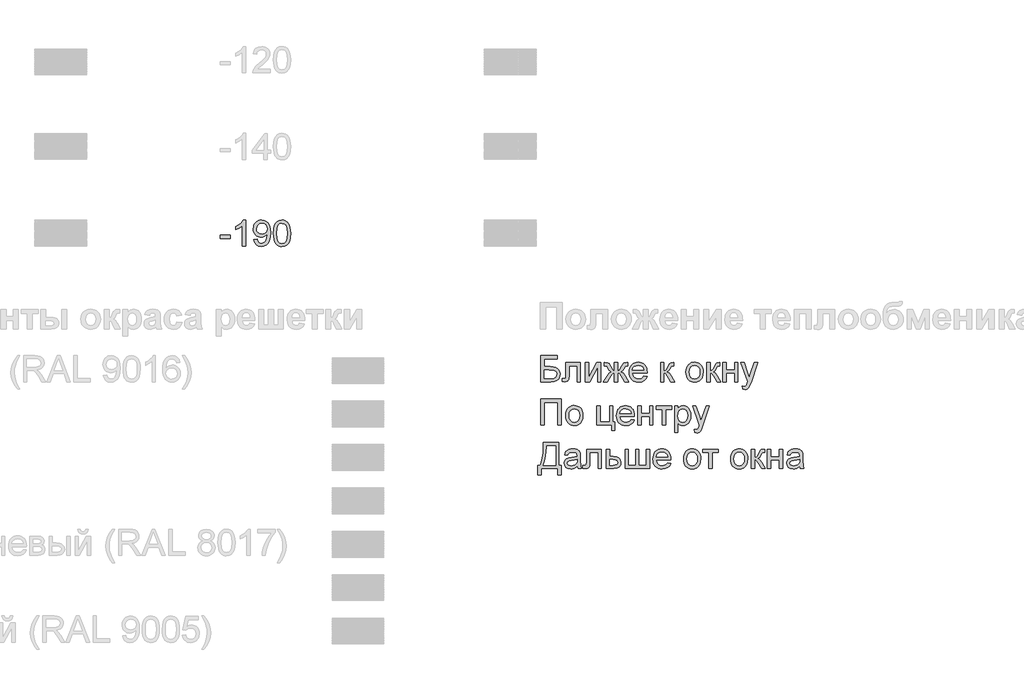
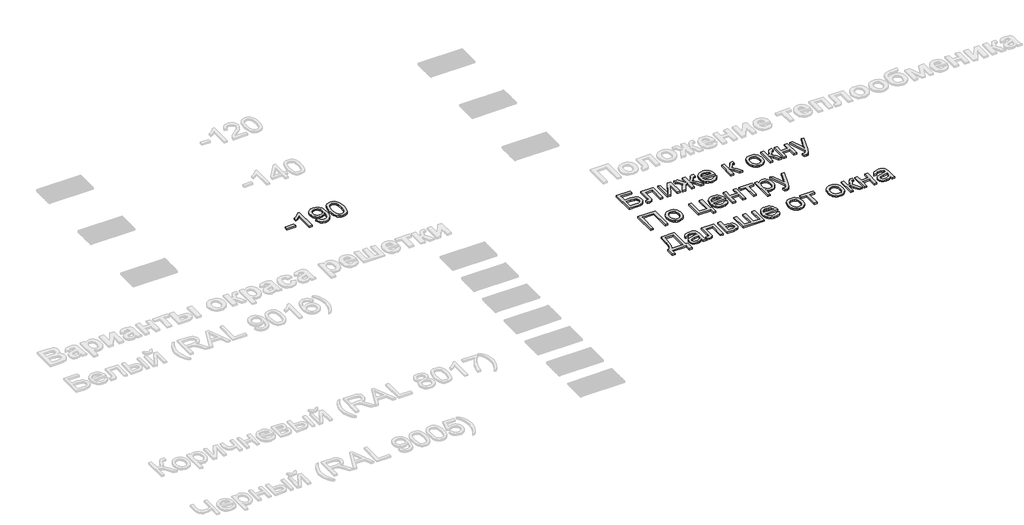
# One storey, part 7 of 10: 4 proxies.
"""IFC4 building model written with IfcOpenShell, lengths in millimetres."""

from ifc_helpers import new_model, si_unit, origin, origin_with_axes, place, context, project, spatial, polyline, outline, extrude, element, save

model = new_model("IFC4")

# Units and contexts
model_context = context("Model", 3, world=origin())
ifc_project = project(units=[si_unit("LENGTHUNIT", "METRE", prefix="MILLI")], contexts=[model_context])

# Site, building, storey
site = spatial("IfcSite", under=ifc_project)
building = spatial("IfcBuilding", under=site)
storey = spatial("IfcBuildingStorey", under=building, Name="Уровень 1", Elevation=0.0)

# Proxies
placement = place(None, origin())
element("IfcBuildingElementProxy", 1, Name="300", ObjectType="300", at=placement, inside=storey, context=model_context, shape_type="SweptSolid", body=[
    extrude(outline(polyline([(14601.8476281, -18213.7438159), (14790.2032096, -18213.7438159), (14790.2032096, -18251.4149322), (14639.5187444, -18251.4149322), (14639.5187444, -18340.8838335), (14710.078511, -18340.8838335), (14745.1560593, -18342.7968198), (14772.2505682, -18348.535779), (14793.0542951, -18359.5906329), (14809.2594969, -18377.4513038), (14819.6889515, -18400.4439285), (14823.1654364, -18426.8946439), (14820.6914299, -18449.1055194), (14813.2694107, -18469.8264728), (14800.9361668, -18487.9722522), (14783.7284865, -18502.4576057), (14757.1858005, -18511.9489612), (14716.8475398, -18515.1127464), (14601.8476281, -18515.1127464), (14601.8476281, -18213.7438159)]), holes=[polyline([(14639.5187444, -18477.4416301), (14720.2320541, -18477.4416301), (14748.7613028, -18474.3330272), (14769.1603595, -18465.0072186), (14781.4108299, -18449.4642043), (14785.4943201, -18427.7039843), (14783.1582694, -18411.4987824), (14776.1501174, -18398.1998483), (14764.9757018, -18388.3406108), (14750.1408603, -18382.4544989), (14693.3766685, -18378.5549498), (14639.5187444, -18378.5549498), (14639.5187444, -18477.4416301)])]), origin_with_axes(), (0.0, 0.0, 1.0), 20.0),
    extrude(outline(polyline([(14889.0898899, -18293.7949381), (15058.6099133, -18293.7949381), (15058.6099133, -18514.8920172), (15020.938797, -18514.8920172), (15020.938797, -18331.4660544), (14926.7610062, -18331.4660544), (14926.7610062, -18437.048187), (14924.2226204, -18485.7557632), (14919.4677457, -18496.783026), (14910.2798928, -18506.3203667), (14896.3371652, -18512.9146515), (14877.3176661, -18515.1127464), (14846.7098841, -18513.19976), (14846.7098841, -18477.4416301), (14863.5588794, -18477.4416301), (14880.5918158, -18475.1239735), (14887.3976327, -18467.7663336), (14889.0898899, -18434.9144714), (14889.0898899, -18293.7949381)])), origin_with_axes(), (0.0, 0.0, 1.0), 20.0),
    extrude(outline(polyline([(15115.1165877, -18293.7949381), (15152.787704, -18293.7949381), (15152.787704, -18462.5791975), (15245.346814, -18293.7949381), (15294.0543902, -18293.7949381), (15294.0543902, -18515.1127464), (15256.3832739, -18515.1127464), (15256.3832739, -18347.3585566), (15164.4127751, -18515.1127464), (15115.1165877, -18515.1127464), (15115.1165877, -18293.7949381)])), origin_with_axes(), (0.0, 0.0, 1.0), 20.0),
    extrude(outline(polyline([(15487.1188613, -18293.7949381), (15487.1188613, -18387.9727288), (15500.4085983, -18386.0321513), (15509.0814164, -18380.2104187), (15529.8667491, -18339.9273403), (15542.8345894, -18314.8193941), (15554.6619956, -18301.2997308), (15569.0277875, -18295.6711363), (15589.9050907, -18293.7949381), (15604.8410997, -18293.7949381), (15604.8410997, -18331.6867836), (15594.4668275, -18331.4660544), (15575.0426581, -18335.3656035), (15561.5781771, -18359.792968), (15545.9431923, -18386.5747773), (15523.6127552, -18400.1864111), (15536.0057799, -18405.4885103), (15548.2424548, -18414.8465086), (15572.2467549, -18445.7302021), (15614.2588788, -18515.1127464), (15571.0695326, -18515.1127464), (15529.7195963, -18446.6866953), (15518.416422, -18428.7248569), (15508.639958, -18418.2494171), (15498.7531294, -18413.2002367), (15487.1188613, -18411.5171765), (15487.1188613, -18515.1127464), (15449.447745, -18515.1127464), (15449.447745, -18411.5171765), (15437.9054474, -18413.1634485), (15428.0002246, -18418.1022643), (15418.1501842, -18428.5041277), (15406.7734335, -18446.5395425), (15365.4234973, -18515.1127464), (15322.3077274, -18515.1127464), (15364.1726985, -18445.7302021), (15388.3609397, -18414.8465086), (15400.6619939, -18405.4885103), (15413.1010038, -18400.1864111), (15398.7168178, -18392.975924), (15389.4094033, -18385.1768257), (15369.1023172, -18346.5492162), (15359.1695033, -18333.8204992), (15342.9091192, -18331.2453252), (15331.7255065, -18331.4660544), (15331.7255065, -18293.7949381), (15337.3908892, -18293.7949381), (15370.4266924, -18296.1493829), (15387.5699934, -18306.1557731), (15406.7734335, -18339.9273403), (15427.338037, -18379.9529014), (15436.0108551, -18385.967772), (15449.447745, -18387.9727288), (15449.447745, -18293.7949381), (15487.1188613, -18293.7949381)])), origin_with_axes(), (0.0, 0.0, 1.0), 20.0),
    extrude(outline(polyline([(15788.0463333, -18449.1882928), (15824.9816856, -18453.8971824), (15811.6735545, -18481.7274553), (15790.4375663, -18502.5311821), (15761.7519677, -18515.4990225), (15726.0950053, -18519.8216359), (15702.7207031, -18517.9569341), (15681.8939836, -18512.3628285), (15663.614847, -18503.0393192), (15647.8832932, -18489.9864061), (15635.232751, -18473.5673728), (15626.1966495, -18454.1455027), (15620.7749886, -18431.7207959), (15618.9677683, -18406.2932522), (15620.7933827, -18380.0034851), (15626.2702259, -18356.831518), (15635.3982979, -18336.7773507), (15648.1775988, -18319.8409833), (15663.8677658, -18306.3856994), (15681.7284367, -18296.7747822), (15701.7596113, -18291.008232), (15723.9612898, -18289.0860485), (15745.4478975, -18291.0036334), (15764.8789647, -18296.7563881), (15782.2544912, -18306.3443126), (15797.574477, -18319.7674069), (15810.0801656, -18336.6669861), (15819.0128003, -18356.6843652), (15824.3723811, -18379.8195441), (15826.158908, -18406.072523), (15825.9381788, -18416.2260661), (15656.6388846, -18416.2260661), (15663.159593, -18444.424221), (15678.3071342, -18465.1543714), (15700.1685217, -18477.9014826), (15726.8307693, -18482.1505196), (15746.8803381, -18480.1823509), (15763.7661216, -18474.2778449), (15777.4881201, -18464.0691195), (15788.0463333, -18449.1882928)]), holes=[polyline([(15656.6388846, -18378.5549498), (15788.4877917, -18378.5549498), (15783.3926261, -18358.6525338), (15773.4046299, -18344.4155006), (15751.4420748, -18331.1717488), (15723.814137, -18326.7571648), (15698.4210822, -18330.279635), (15677.4242174, -18340.8470453), (15662.8284992, -18357.3189616), (15656.6388846, -18378.5549498)])]), origin_with_axes(), (0.0, 0.0, 1.0), 20.0),
    extrude(outline(polyline([(15981.5522628, -18293.7949381), (16019.2233791, -18293.7949381), (16019.2233791, -18387.9727288), (16034.5456642, -18386.2804717), (16044.460084, -18381.2037001), (16053.2340695, -18367.9599483), (16065.1350521, -18341.7667503), (16082.3151413, -18307.7376657), (16097.4718795, -18296.6644176), (16125.0262409, -18293.7949381), (16132.236728, -18293.7949381), (16132.236728, -18331.6867836), (16122.0831849, -18331.4660544), (16103.6890852, -18335.4391799), (16090.7396389, -18360.2344264), (16075.5461125, -18387.0530239), (16054.245745, -18400.1864111), (16066.1835158, -18405.4885103), (16078.0109219, -18414.8465086), (16101.3346404, -18445.7302021), (16141.6545071, -18515.1127464), (16098.8330428, -18515.1127464), (16059.3225166, -18447.2017301), (16039.4568888, -18418.4701462), (16030.1678684, -18413.255419), (16019.2233791, -18411.5171765), (16019.2233791, -18515.1127464), (15981.5522628, -18515.1127464), (15981.5522628, -18293.7949381)])), origin_with_axes(), (0.0, 0.0, 1.0), 20.0),
    extrude(outline(polyline([(16273.5034142, -18404.4538422), (16275.5405607, -18375.7912363), (16281.6520003, -18351.0925588), (16291.8377331, -18330.3578099), (16306.0977589, -18313.5869894), (16320.4543538, -18302.8678278), (16336.3008707, -18295.2112838), (16353.6373098, -18290.6173573), (16372.4636709, -18289.0860485), (16393.2467043, -18290.9507504), (16412.0385765, -18296.544856), (16428.8392874, -18305.8683653), (16443.6488369, -18318.9212784), (16455.7360597, -18335.2621367), (16464.3697903, -18354.449482), (16469.5500286, -18376.4833143), (16471.2767748, -18401.3636335), (16468.2233542, -18439.4210259), (16459.0630925, -18468.391733), (16444.0627042, -18490.0875737), (16423.4889036, -18506.3203667), (16399.0523421, -18516.4463186), (16372.4636709, -18519.8216359), (16351.3771347, -18517.9638318), (16332.4105186, -18512.3904196), (16315.5638225, -18503.1013992), (16300.8370464, -18490.0967707), (16288.8785823, -18473.5972632), (16280.3368222, -18453.823606), (16275.2117662, -18430.775799), (16273.5034142, -18404.4538422)]), holes=[polyline([(16311.1745305, -18404.3802658), (16315.5339321, -18438.4737297), (16328.612137, -18462.7631385), (16348.2938238, -18477.3036743), (16372.4636709, -18482.1505196), (16396.5231533, -18477.2760832), (16416.1680519, -18462.6527739), (16429.2462568, -18438.0414684), (16433.6056585, -18403.2030434), (16429.2186657, -18370.1028609), (16416.0576873, -18346.144546), (16396.3851976, -18331.6040101), (16372.4636709, -18326.7571648), (16348.2938238, -18331.585616), (16328.612137, -18346.0709696), (16315.5339321, -18370.305196), (16311.1745305, -18404.3802658)])]), origin_with_axes(), (0.0, 0.0, 1.0), 20.0),
    extrude(outline(polyline([(16513.6567806, -18293.7949381), (16551.3278969, -18293.7949381), (16551.3278969, -18387.9727288), (16566.650182, -18386.2804717), (16576.5646018, -18381.2037001), (16585.3385874, -18367.9599483), (16597.2395699, -18341.7667503), (16614.4196591, -18307.7376657), (16629.5763973, -18296.6644176), (16657.1307587, -18293.7949381), (16664.3412458, -18293.7949381), (16664.3412458, -18331.6867836), (16654.1877028, -18331.4660544), (16635.793603, -18335.4391799), (16622.8441568, -18360.2344264), (16607.6506304, -18387.0530239), (16586.3502629, -18400.1864111), (16598.2880336, -18405.4885103), (16610.1154397, -18414.8465086), (16633.4391582, -18445.7302021), (16673.7590249, -18515.1127464), (16630.9375607, -18515.1127464), (16591.4270344, -18447.2017301), (16571.5614066, -18418.4701462), (16562.2723863, -18413.255419), (16551.3278969, -18411.5171765), (16551.3278969, -18515.1127464), (16513.6567806, -18515.1127464), (16513.6567806, -18293.7949381)])), origin_with_axes(), (0.0, 0.0, 1.0), 20.0),
    extrude(outline(polyline([(16697.3034726, -18293.7949381), (16734.9745889, -18293.7949381), (16734.9745889, -18378.5549498), (16833.8612692, -18378.5549498), (16833.8612692, -18293.7949381), (16871.5323855, -18293.7949381), (16871.5323855, -18515.1127464), (16833.8612692, -18515.1127464), (16833.8612692, -18416.2260661), (16734.9745889, -18416.2260661), (16734.9745889, -18515.1127464), (16697.3034726, -18515.1127464), (16697.3034726, -18293.7949381)])), origin_with_axes(), (0.0, 0.0, 1.0), 20.0),
    extrude(outline(polyline([(16928.03906, -18599.8727581), (16923.3301704, -18563.5995933), (16942.4600342, -18566.9105313), (16960.3390991, -18562.7534648), (16971.3019826, -18551.1651819), (16981.6026785, -18523.4268795), (16984.5457344, -18514.303406), (16904.4946123, -18293.7949381), (16944.2258678, -18293.7949381), (16986.67945, -18416.6675245), (17001.4683062, -18465.816559), (17016.2571624, -18422.4064836), (17059.887967, -18293.7949381), (17099.3249169, -18293.7949381), (17022.2904271, -18520.4102471), (17002.2776466, -18569.5592817), (16992.032133, -18585.2494488), (16980.4254561, -18596.1203617), (16966.942581, -18602.4663261), (16951.0684729, -18604.5816476), (16928.03906, -18599.8727581)])), origin_with_axes(), (0.0, 0.0, 1.0), 20.0),
])
element("IfcBuildingElementProxy", 2, Name="300", ObjectType="300", at=placement, inside=storey, context=model_context, shape_type="SweptSolid", body=[
    extrude(outline(polyline([(14601.8476281, -18713.7438159), (14837.292105, -18713.7438159), (14837.292105, -19015.1127464), (14799.6209887, -19015.1127464), (14799.6209887, -18751.4149322), (14639.5187444, -18751.4149322), (14639.5187444, -19015.1127464), (14601.8476281, -19015.1127464), (14601.8476281, -18713.7438159)])), origin_with_axes(), (0.0, 0.0, 1.0), 20.0),
    extrude(outline(polyline([(14889.0898899, -18904.4538422), (14891.1270365, -18875.7912363), (14897.2384761, -18851.0925588), (14907.4242088, -18830.3578099), (14921.6842347, -18813.5869894), (14936.0408295, -18802.8678278), (14951.8873465, -18795.2112838), (14969.2237855, -18790.6173573), (14988.0501466, -18789.0860485), (15008.8331801, -18790.9507504), (15027.6250522, -18796.544856), (15044.4257631, -18805.8683653), (15059.2353127, -18818.9212784), (15071.3225355, -18835.2621367), (15079.9562661, -18854.449482), (15085.1365044, -18876.4833143), (15086.8632505, -18901.3636335), (15083.8098299, -18939.4210259), (15074.6495683, -18968.391733), (15059.6491799, -18990.0875737), (15039.0753793, -19006.3203667), (15014.6388178, -19016.4463186), (14988.0501466, -19019.8216359), (14966.9636105, -19017.9638318), (14947.9969944, -19012.3904196), (14931.1502983, -19003.1013992), (14916.4235221, -18990.0967707), (14904.465058, -18973.5972632), (14895.923298, -18953.823606), (14890.7982419, -18930.775799), (14889.0898899, -18904.4538422)]), holes=[polyline([(14926.7610062, -18904.3802658), (14931.1204079, -18938.4737297), (14944.1986128, -18962.7631385), (14963.8802995, -18977.3036743), (14988.0501466, -18982.1505196), (15012.1096291, -18977.2760832), (15031.7545276, -18962.6527739), (15044.8327326, -18938.0414684), (15049.1921342, -18903.2030434), (15044.8051414, -18870.1028609), (15031.644163, -18846.144546), (15011.9716733, -18831.6040101), (14988.0501466, -18826.7571648), (14963.8802995, -18831.585616), (14944.1986128, -18846.0709696), (14931.1204079, -18870.305196), (14926.7610062, -18904.3802658)])]), origin_with_axes(), (0.0, 0.0, 1.0), 20.0),
    extrude(outline(polyline([(15246.9654948, -18793.7949381), (15284.6366111, -18793.7949381), (15284.6366111, -18977.4416301), (15392.9410705, -18977.4416301), (15392.9410705, -18793.7949381), (15430.6121868, -18793.7949381), (15430.6121868, -18977.4416301), (15454.1566345, -18977.4416301), (15454.1566345, -19076.3283104), (15416.4855182, -19076.3283104), (15416.4855182, -19015.1127464), (15246.9654948, -19015.1127464), (15246.9654948, -18793.7949381)])), origin_with_axes(), (0.0, 0.0, 1.0), 20.0),
    extrude(outline(polyline([(15642.0707576, -18949.1882928), (15679.0061099, -18953.8971824), (15665.6979788, -18981.7274553), (15644.4619906, -19002.5311821), (15615.776392, -19015.4990225), (15580.1194296, -19019.8216359), (15556.7451274, -19017.9569341), (15535.9184079, -19012.3628285), (15517.6392713, -19003.0393192), (15501.9077175, -18989.9864061), (15489.2571754, -18973.5673728), (15480.2210739, -18954.1455027), (15474.7994129, -18931.7207959), (15472.9921926, -18906.2932522), (15474.817807, -18880.0034851), (15480.2946503, -18856.831518), (15489.4227223, -18836.7773507), (15502.2020231, -18819.8409833), (15517.8921902, -18806.3856994), (15535.752861, -18796.7747822), (15555.7840357, -18791.008232), (15577.9857141, -18789.0860485), (15599.4723219, -18791.0036334), (15618.903389, -18796.7563881), (15636.2789155, -18806.3443126), (15651.5989013, -18819.7674069), (15664.1045899, -18836.6669861), (15673.0372246, -18856.6843652), (15678.3968054, -18879.8195441), (15680.1833323, -18906.072523), (15679.9626031, -18916.2260661), (15510.663309, -18916.2260661), (15517.1840173, -18944.424221), (15532.3315585, -18965.1543714), (15554.192946, -18977.9014826), (15580.8551936, -18982.1505196), (15600.9047624, -18980.1823509), (15617.7905459, -18974.2778449), (15631.5125444, -18964.0691195), (15642.0707576, -18949.1882928)]), holes=[polyline([(15510.663309, -18878.5549498), (15642.512216, -18878.5549498), (15637.4170504, -18858.6525338), (15627.4290542, -18844.4155006), (15605.4664991, -18831.1717488), (15577.8385613, -18826.7571648), (15552.4455066, -18830.279635), (15531.4486417, -18840.8470453), (15516.8529235, -18857.3189616), (15510.663309, -18878.5549498)])]), origin_with_axes(), (0.0, 0.0, 1.0), 20.0),
    extrude(outline(polyline([(15717.8544486, -18793.7949381), (15755.5255649, -18793.7949381), (15755.5255649, -18878.5549498), (15854.4122452, -18878.5549498), (15854.4122452, -18793.7949381), (15892.0833616, -18793.7949381), (15892.0833616, -19015.1127464), (15854.4122452, -19015.1127464), (15854.4122452, -18916.2260661), (15755.5255649, -18916.2260661), (15755.5255649, -19015.1127464), (15717.8544486, -19015.1127464), (15717.8544486, -18793.7949381)])), origin_with_axes(), (0.0, 0.0, 1.0), 20.0),
    extrude(outline(polyline([(15929.7544779, -18793.7949381), (16108.6922803, -18793.7949381), (16108.6922803, -18831.4660544), (16038.0589372, -18831.4660544), (16038.0589372, -19015.1127464), (16000.3878209, -19015.1127464), (16000.3878209, -18831.4660544), (15929.7544779, -18831.4660544), (15929.7544779, -18793.7949381)])), origin_with_axes(), (0.0, 0.0, 1.0), 20.0),
    extrude(outline(polyline([(16141.6545071, -19099.8727581), (16141.6545071, -18793.7949381), (16179.3256234, -18793.7949381), (16179.3256234, -18830.7302904), (16191.612882, -18812.5109346), (16205.3716686, -18799.497109), (16221.4113236, -18791.6888137), (16240.5411874, -18789.0860485), (16266.0170155, -18792.7280803), (16288.2922704, -18803.6541756), (16306.4288527, -18821.2021467), (16319.4886635, -18844.7098062), (16327.3797323, -18872.4665028), (16330.0100886, -18902.7615851), (16327.0394415, -18934.9788508), (16318.1275002, -18963.7932081), (16303.5593732, -18987.7423259), (16283.620169, -19005.3638735), (16260.3976181, -19016.2071953), (16235.9794506, -19019.8216359), (16218.6614057, -19017.4028118), (16203.2011649, -19010.1463394), (16189.9666101, -18999.192653), (16179.3256234, -18985.6821868), (16179.3256234, -19099.8727581), (16141.6545071, -19099.8727581)]), holes=[polyline([(16179.3256234, -18906.2196758), (16183.3999165, -18939.991243), (16195.6227958, -18963.6092671), (16213.6582106, -18977.5152065), (16235.1701103, -18982.1505196), (16257.0314978, -18977.3496596), (16275.5267651, -18962.9470795), (16288.1359205, -18938.4645327), (16292.3389723, -18903.4237726), (16288.2370881, -18869.8361465), (16275.9314353, -18845.8870286), (16257.9236117, -18831.5396308), (16236.7152146, -18826.7571648), (16215.4240442, -18831.8431334), (16196.7264418, -18847.1010392), (16183.675828, -18872.0526355), (16179.3256234, -18906.2196758)])]), origin_with_axes(), (0.0, 0.0, 1.0), 20.0),
    extrude(outline(polyline([(16372.3900945, -19099.8727581), (16367.6812049, -19063.5995933), (16386.8110687, -19066.9105313), (16404.6901336, -19062.7534648), (16415.6530171, -19051.1651819), (16425.953713, -19023.4268795), (16428.8967689, -19014.303406), (16348.8456468, -18793.7949381), (16388.5769022, -18793.7949381), (16431.0304845, -18916.6675245), (16445.8193407, -18965.816559), (16460.6081969, -18922.4064836), (16504.2390015, -18793.7949381), (16543.6759514, -18793.7949381), (16466.6414616, -19020.4102471), (16446.6286811, -19069.5592817), (16436.3831675, -19085.2494488), (16424.7764906, -19096.1203617), (16411.2936154, -19102.4663261), (16395.4195074, -19104.5816476), (16372.3900945, -19099.8727581)])), origin_with_axes(), (0.0, 0.0, 1.0), 20.0),
])
element("IfcBuildingElementProxy", 3, Name="300", ObjectType="300", at=placement, inside=storey, context=model_context, shape_type="SweptSolid", body=[
    extrude(outline(polyline([(14630.1009653, -19213.7438159), (14809.0387678, -19213.7438159), (14809.0387678, -19477.4416301), (14837.292105, -19477.4416301), (14837.292105, -19585.7460895), (14799.6209887, -19585.7460895), (14799.6209887, -19515.1127464), (14606.5565176, -19515.1127464), (14606.5565176, -19585.7460895), (14568.8854013, -19585.7460895), (14568.8854013, -19477.4416301), (14592.429849, -19477.4416301), (14608.9109624, -19443.2699912), (14620.6831862, -19395.2016101), (14627.7465205, -19333.2364865), (14630.1009653, -19257.3746206), (14630.1009653, -19213.7438159)]), holes=[polyline([(14771.3676514, -19251.4149322), (14667.7720816, -19251.4149322), (14667.7720816, -19266.5716704), (14660.1201361, -19369.7993583), (14648.7893707, -19429.4514238), (14630.1009653, -19477.4416301), (14771.3676514, -19477.4416301), (14771.3676514, -19251.4149322)])]), origin_with_axes(), (0.0, 0.0, 1.0), 20.0),
    extrude(outline(polyline([(15020.938797, -19486.8594092), (15002.9401704, -19502.2920588), (14984.4081149, -19512.3904196), (14964.9195662, -19517.9638318), (14944.05146, -19519.8216359), (14912.5699582, -19515.3518697), (14889.3474073, -19501.942571), (14875.0276006, -19481.5803025), (14870.2543317, -19456.2516272), (14872.0569535, -19440.6350365), (14877.4648189, -19426.4531855), (14885.8065431, -19414.3130797), (14896.4107416, -19404.8217242), (14922.7878807, -19392.4608892), (14955.3822254, -19386.7955065), (14993.8994703, -19380.8358181), (15020.7180678, -19373.8460602), (15020.938797, -19365.4583507), (15018.3452289, -19348.6461436), (15010.5645247, -19337.6464719), (14993.1637063, -19329.4794916), (14968.9202829, -19326.7571648), (14946.4794812, -19328.5689837), (14930.8077082, -19334.0044402), (14920.1207362, -19344.0568157), (14912.6343376, -19359.7193916), (14874.9632213, -19355.0105021), (14881.5023238, -19334.4091103), (14891.2603937, -19318.2223026), (14905.147939, -19305.8430734), (14924.0754676, -19296.6644176), (14947.2244422, -19290.9806408), (14973.7763252, -19289.0860485), (14999.2429563, -19290.7599116), (15019.4304808, -19295.7815009), (15034.6515983, -19303.3322788), (15045.2190087, -19312.593708), (15052.2271607, -19324.0440351), (15056.7705033, -19338.1615067), (15058.6099133, -19371.1237335), (15058.6099133, -19417.9918997), (15060.5228997, -19483.4381066), (15068.0276924, -19515.1127464), (15030.3565761, -19515.1127464), (15020.938797, -19486.8594092)]), holes=[polyline([(15020.938797, -19411.5171765), (14960.1646914, -19423.0686712), (14927.7542876, -19429.1755123), (14913.075796, -19439.1083262), (14907.9254481, -19453.6028768), (14910.7305483, -19464.8048835), (14919.1458489, -19473.9835393), (14932.987409, -19480.1087745), (14952.0712875, -19482.1505196), (14972.3047972, -19479.8972424), (14990.1838622, -19473.1374107), (15004.6784128, -19463.1770057), (15014.7583795, -19451.3220084), (15019.2281457, -19439.1083262), (15020.7180678, -19422.1857544), (15020.938797, -19411.5171765)])]), origin_with_axes(), (0.0, 0.0, 1.0), 20.0),
    extrude(outline(polyline([(15129.2432564, -19293.7949381), (15298.7632797, -19293.7949381), (15298.7632797, -19514.8920172), (15261.0921634, -19514.8920172), (15261.0921634, -19331.4660544), (15166.9143727, -19331.4660544), (15166.9143727, -19437.048187), (15164.3759869, -19485.7557632), (15159.6211121, -19496.783026), (15150.4332593, -19506.3203667), (15136.4905317, -19512.9146515), (15117.4710325, -19515.1127464), (15086.8632505, -19513.19976), (15086.8632505, -19477.4416301), (15103.7122459, -19477.4416301), (15120.7451823, -19475.1239735), (15127.5509992, -19467.7663336), (15129.2432564, -19434.9144714), (15129.2432564, -19293.7949381)])), origin_with_axes(), (0.0, 0.0, 1.0), 20.0),
    extrude(outline(polyline([(15355.2699542, -19293.7949381), (15392.9410705, -19293.7949381), (15392.9410705, -19373.8460602), (15436.3511459, -19373.8460602), (15473.985474, -19378.5641468), (15489.1330152, -19384.4617551), (15501.8341411, -19392.7184066), (15511.8773195, -19403.0489929), (15519.0510184, -19415.1684053), (15524.7899776, -19444.7737089), (15519.9063441, -19471.7302621), (15505.2554436, -19494.4745665), (15494.0235465, -19503.5037702), (15479.8623889, -19509.9532014), (15442.7522926, -19515.1127464), (15355.2699542, -19515.1127464), (15355.2699542, -19293.7949381)]), holes=[polyline([(15392.9410705, -19477.4416301), (15428.1105892, -19477.4416301), (15455.3982362, -19475.4642644), (15473.5440156, -19469.5321672), (15483.7251499, -19459.4062153), (15487.1188613, -19444.8472853), (15484.6080666, -19432.5416326), (15477.0756828, -19421.6707196), (15460.9348603, -19414.0555623), (15432.5987496, -19411.5171765), (15392.9410705, -19411.5171765), (15392.9410705, -19477.4416301)])]), origin_with_axes(), (0.0, 0.0, 1.0), 20.0),
    extrude(outline(polyline([(15571.878873, -19293.7949381), (15609.5499893, -19293.7949381), (15609.5499893, -19477.4416301), (15694.3100009, -19477.4416301), (15694.3100009, -19293.7949381), (15731.9811173, -19293.7949381), (15731.9811173, -19477.4416301), (15816.7411289, -19477.4416301), (15816.7411289, -19293.7949381), (15854.4122452, -19293.7949381), (15854.4122452, -19515.1127464), (15571.878873, -19515.1127464), (15571.878873, -19293.7949381)])), origin_with_axes(), (0.0, 0.0, 1.0), 20.0),
    extrude(outline(polyline([(16061.1619265, -19449.1882928), (16098.0972789, -19453.8971824), (16084.7891477, -19481.7274553), (16063.5531595, -19502.5311821), (16034.8675609, -19515.4990225), (15999.2105985, -19519.8216359), (15975.8362963, -19517.9569341), (15955.0095768, -19512.3628285), (15936.7304402, -19503.0393192), (15920.9988864, -19489.9864061), (15908.3483443, -19473.5673728), (15899.3122428, -19454.1455027), (15893.8905819, -19431.7207959), (15892.0833616, -19406.2932522), (15893.908976, -19380.0034851), (15899.3858192, -19356.831518), (15908.5138912, -19336.7773507), (15921.293192, -19319.8409833), (15936.9833591, -19306.3856994), (15954.8440299, -19296.7747822), (15974.8752046, -19291.008232), (15997.076883, -19289.0860485), (16018.5634908, -19291.0036334), (16037.9945579, -19296.7563881), (16055.3700844, -19306.3443126), (16070.6900702, -19319.7674069), (16083.1957588, -19336.6669861), (16092.1283935, -19356.6843652), (16097.4879743, -19379.8195441), (16099.2745012, -19406.072523), (16099.053772, -19416.2260661), (15929.7544779, -19416.2260661), (15936.2751862, -19444.424221), (15951.4227274, -19465.1543714), (15973.2841149, -19477.9014826), (15999.9463625, -19482.1505196), (16019.9959313, -19480.1823509), (16036.8817149, -19474.2778449), (16050.6037133, -19464.0691195), (16061.1619265, -19449.1882928)]), holes=[polyline([(15929.7544779, -19378.5549498), (16061.6033849, -19378.5549498), (16056.5082193, -19358.6525338), (16046.5202231, -19344.4155006), (16024.557668, -19331.1717488), (15996.9297302, -19326.7571648), (15971.5366755, -19330.279635), (15950.5398106, -19340.8470453), (15935.9440924, -19357.3189616), (15929.7544779, -19378.5549498)])]), origin_with_axes(), (0.0, 0.0, 1.0), 20.0),
    extrude(outline(polyline([(16245.2500769, -19404.4538422), (16247.2872235, -19375.7912363), (16253.3986631, -19351.0925588), (16263.5843959, -19330.3578099), (16277.8444217, -19313.5869894), (16292.2010166, -19302.8678278), (16308.0475335, -19295.2112838), (16325.3839725, -19290.6173573), (16344.2103336, -19289.0860485), (16364.9933671, -19290.9507504), (16383.7852393, -19296.544856), (16400.5859501, -19305.8683653), (16415.3954997, -19318.9212784), (16427.4827225, -19335.2621367), (16436.1164531, -19354.449482), (16441.2966914, -19376.4833143), (16443.0234375, -19401.3636335), (16439.970017, -19439.4210259), (16430.8097553, -19468.391733), (16415.8093669, -19490.0875737), (16395.2355664, -19506.3203667), (16370.7990048, -19516.4463186), (16344.2103336, -19519.8216359), (16323.1237975, -19517.9638318), (16304.1571814, -19512.3904196), (16287.3104853, -19503.1013992), (16272.5837092, -19490.0967707), (16260.6252451, -19473.5972632), (16252.083485, -19453.823606), (16246.9584289, -19430.775799), (16245.2500769, -19404.4538422)]), holes=[polyline([(16282.9211932, -19404.3802658), (16287.2805949, -19438.4737297), (16300.3587998, -19462.7631385), (16320.0404865, -19477.3036743), (16344.2103336, -19482.1505196), (16368.2698161, -19477.2760832), (16387.9147147, -19462.6527739), (16400.9929196, -19438.0414684), (16405.3523212, -19403.2030434), (16400.9653284, -19370.1028609), (16387.8043501, -19346.144546), (16368.1318604, -19331.6040101), (16344.2103336, -19326.7571648), (16320.0404865, -19331.585616), (16300.3587998, -19346.0709696), (16287.2805949, -19370.305196), (16282.9211932, -19404.3802658)])]), origin_with_axes(), (0.0, 0.0, 1.0), 20.0),
    extrude(outline(polyline([(16466.5678852, -19293.7949381), (16645.5056877, -19293.7949381), (16645.5056877, -19331.4660544), (16574.8723446, -19331.4660544), (16574.8723446, -19515.1127464), (16537.2012283, -19515.1127464), (16537.2012283, -19331.4660544), (16466.5678852, -19331.4660544), (16466.5678852, -19293.7949381)])), origin_with_axes(), (0.0, 0.0, 1.0), 20.0),
    extrude(outline(polyline([(16786.7723738, -19404.4538422), (16788.8095204, -19375.7912363), (16794.92096, -19351.0925588), (16805.1066928, -19330.3578099), (16819.3667186, -19313.5869894), (16833.7233135, -19302.8678278), (16849.5698304, -19295.2112838), (16866.9062694, -19290.6173573), (16885.7326305, -19289.0860485), (16906.515664, -19290.9507504), (16925.3075362, -19296.544856), (16942.108247, -19305.8683653), (16956.9177966, -19318.9212784), (16969.0050194, -19335.2621367), (16977.63875, -19354.449482), (16982.8189883, -19376.4833143), (16984.5457344, -19401.3636335), (16981.4923139, -19439.4210259), (16972.3320522, -19468.391733), (16957.3316638, -19490.0875737), (16936.7578633, -19506.3203667), (16912.3213017, -19516.4463186), (16885.7326305, -19519.8216359), (16864.6460944, -19517.9638318), (16845.6794783, -19512.3904196), (16828.8327822, -19503.1013992), (16814.1060061, -19490.0967707), (16802.147542, -19473.5972632), (16793.6057819, -19453.823606), (16788.4807258, -19430.775799), (16786.7723738, -19404.4538422)]), holes=[polyline([(16824.4434901, -19404.3802658), (16828.8028918, -19438.4737297), (16841.8810967, -19462.7631385), (16861.5627834, -19477.3036743), (16885.7326305, -19482.1505196), (16909.792113, -19477.2760832), (16929.4370116, -19462.6527739), (16942.5152165, -19438.0414684), (16946.8746181, -19403.2030434), (16942.4876253, -19370.1028609), (16929.326647, -19346.144546), (16909.6541573, -19331.6040101), (16885.7326305, -19326.7571648), (16861.5627834, -19331.585616), (16841.8810967, -19346.0709696), (16828.8028918, -19370.305196), (16824.4434901, -19404.3802658)])]), origin_with_axes(), (0.0, 0.0, 1.0), 20.0),
    extrude(outline(polyline([(17026.9257403, -19293.7949381), (17064.5968566, -19293.7949381), (17064.5968566, -19387.9727288), (17079.9191417, -19386.2804717), (17089.8335614, -19381.2037001), (17098.607547, -19367.9599483), (17110.5085296, -19341.7667503), (17127.6886188, -19307.7376657), (17142.845357, -19296.6644176), (17170.3997184, -19293.7949381), (17177.6102055, -19293.7949381), (17177.6102055, -19331.6867836), (17167.4566624, -19331.4660544), (17149.0625627, -19335.4391799), (17136.1131164, -19360.2344264), (17120.91959, -19387.0530239), (17099.6192225, -19400.1864111), (17111.5569933, -19405.4885103), (17123.3843994, -19414.8465086), (17146.7081179, -19445.7302021), (17187.0279846, -19515.1127464), (17144.2065203, -19515.1127464), (17104.6959941, -19447.2017301), (17084.8303663, -19418.4701462), (17075.5413459, -19413.255419), (17064.5968566, -19411.5171765), (17064.5968566, -19515.1127464), (17026.9257403, -19515.1127464), (17026.9257403, -19293.7949381)])), origin_with_axes(), (0.0, 0.0, 1.0), 20.0),
    extrude(outline(polyline([(17210.5724323, -19293.7949381), (17248.2435486, -19293.7949381), (17248.2435486, -19378.5549498), (17347.1302289, -19378.5549498), (17347.1302289, -19293.7949381), (17384.8013452, -19293.7949381), (17384.8013452, -19515.1127464), (17347.1302289, -19515.1127464), (17347.1302289, -19416.2260661), (17248.2435486, -19416.2260661), (17248.2435486, -19515.1127464), (17210.5724323, -19515.1127464), (17210.5724323, -19293.7949381)])), origin_with_axes(), (0.0, 0.0, 1.0), 20.0),
    extrude(outline(polyline([(17582.5747058, -19486.8594092), (17564.5760792, -19502.2920588), (17546.0440237, -19512.3904196), (17526.555475, -19517.9638318), (17505.6873688, -19519.8216359), (17474.2058671, -19515.3518697), (17450.9833161, -19501.942571), (17436.6635095, -19481.5803025), (17431.8902406, -19456.2516272), (17433.6928623, -19440.6350365), (17439.1007277, -19426.4531855), (17447.4424519, -19414.3130797), (17458.0466504, -19404.8217242), (17484.4237895, -19392.4608892), (17517.0181342, -19386.7955065), (17555.5353791, -19380.8358181), (17582.3539766, -19373.8460602), (17582.5747058, -19365.4583507), (17579.9811377, -19348.6461436), (17572.2004335, -19337.6464719), (17554.7996152, -19329.4794916), (17530.5561917, -19326.7571648), (17508.11539, -19328.5689837), (17492.443617, -19334.0044402), (17481.756645, -19344.0568157), (17474.2702464, -19359.7193916), (17436.5991301, -19355.0105021), (17443.1382326, -19334.4091103), (17452.8963025, -19318.2223026), (17466.7838478, -19305.8430734), (17485.7113765, -19296.6644176), (17508.860351, -19290.9806408), (17535.412234, -19289.0860485), (17560.8788651, -19290.7599116), (17581.0663896, -19295.7815009), (17596.2875072, -19303.3322788), (17606.8549175, -19312.593708), (17613.8630695, -19324.0440351), (17618.4064121, -19338.1615067), (17620.2458221, -19371.1237335), (17620.2458221, -19417.9918997), (17622.1588085, -19483.4381066), (17629.6636012, -19515.1127464), (17591.9924849, -19515.1127464), (17582.5747058, -19486.8594092)]), holes=[polyline([(17582.5747058, -19411.5171765), (17521.8006002, -19423.0686712), (17489.3901964, -19429.1755123), (17474.7117048, -19439.1083262), (17469.5613569, -19453.6028768), (17472.3664571, -19464.8048835), (17480.7817577, -19473.9835393), (17494.6233178, -19480.1087745), (17513.7071963, -19482.1505196), (17533.940706, -19479.8972424), (17551.819771, -19473.1374107), (17566.3143216, -19463.1770057), (17576.3942883, -19451.3220084), (17580.8640545, -19439.1083262), (17582.3539766, -19422.1857544), (17582.5747058, -19411.5171765)])]), origin_with_axes(), (0.0, 0.0, 1.0), 20.0),
])
element("IfcBuildingElementProxy", 4, Name="300", ObjectType="300", at=placement, inside=storey, context=model_context, shape_type="SweptSolid", body=[
    extrude(outline(polyline([(10910.3041617, -16863.5358933), (10910.3041617, -16825.864777), (11028.0264001, -16825.864777), (11028.0264001, -16863.5358933), (10910.3041617, -16863.5358933)])), origin_with_axes(), (0.0, 0.0, 1.0), 20.0),
    extrude(outline(polyline([(11202.255313, -16953.0047945), (11164.5841967, -16953.0047945), (11164.5841967, -16718.1489288), (11128.8996432, -16743.5695747), (11089.2419641, -16762.5890738), (11089.2419641, -16726.9780967), (11118.8288736, -16710.8832594), (11144.4610516, -16691.7350016), (11164.6669702, -16671.3727331), (11177.9751014, -16651.6358641), (11202.255313, -16651.6358641), (11202.255313, -16953.0047945)])), origin_with_axes(), (0.0, 0.0, 1.0), 20.0),
    extrude(outline(polyline([(11296.4331038, -16877.6625619), (11334.1042201, -16872.9536724), (11340.542155, -16894.3368133), (11351.0267919, -16908.8957433), (11365.3006133, -16917.2558616), (11383.1061019, -16920.0425678), (11399.0813775, -16918.249143), (11413.6035193, -16912.8688689), (11425.6700487, -16904.4903564), (11434.2784874, -16893.7022169), (11446.6025342, -16860.9607193), (11452.0471878, -16817.2563383), (11451.8264586, -16809.8986984), (11438.7758448, -16825.8279888), (11421.6969232, -16838.4463412), (11401.8220984, -16846.6685038), (11380.3837751, -16849.4092247), (11362.4886153, -16847.7353616), (11346.0327938, -16842.7137724), (11331.0163106, -16834.344457), (11317.4391657, -16822.6274154), (11306.1888745, -16808.1742516), (11298.1529521, -16791.5965691), (11293.3313987, -16772.8943682), (11291.7242143, -16752.0676488), (11293.4095737, -16730.546552), (11298.4656518, -16711.2327473), (11306.8924488, -16694.1262345), (11318.6899645, -16679.2270137), (11333.025866, -16667.1558858), (11349.0678203, -16658.5336515), (11366.8158273, -16653.3603109), (11386.269887, -16651.6358641), (11414.3668744, -16655.5722014), (11439.9438701, -16667.3812135), (11461.3362081, -16686.474289), (11476.8792224, -16712.2628169), (11486.3429868, -16747.9105822), (11489.4975749, -16796.5813702), (11486.3521838, -16848.1860171), (11476.9160106, -16888.0736224), (11461.2718288, -16918.0468079), (11439.5024117, -16939.9081955), (11412.5458585, -16953.2623119), (11381.3402683, -16957.7136841), (11349.1321996, -16952.4621686), (11323.4356422, -16936.7076221), (11305.4646068, -16911.4433261), (11296.4331038, -16877.6625619)]), holes=[polyline([(11451.8264586, -16751.184732), (11447.7613625, -16725.6537215), (11435.5660744, -16706.008823), (11416.6385457, -16693.482441), (11392.3767281, -16689.3069804), (11367.2135997, -16693.8043378), (11347.0536663, -16707.29641), (11333.8099145, -16727.9437869), (11329.3953306, -16753.9070587), (11333.5707912, -16777.184792), (11346.0971731, -16795.6616652), (11365.7604658, -16807.7189976), (11391.3466586, -16811.7381084), (11415.4153381, -16807.7189976), (11434.7935222, -16795.6616652), (11447.5682245, -16776.5042103), (11451.8264586, -16751.184732)])]), origin_with_axes(), (0.0, 0.0, 1.0), 20.0),
    extrude(outline(polyline([(11522.4598016, -16804.7483505), (11525.2281137, -16756.5098239), (11533.5330497, -16718.0385642), (11547.2918363, -16688.7459603), (11566.4217001, -16668.0434011), (11591.0605967, -16655.7377483), (11621.3464819, -16651.6358641), (11644.5598358, -16654.0638852), (11665.3451686, -16661.3479488), (11682.7275928, -16673.202946), (11695.7322214, -16689.3437686), (11705.5546706, -16709.6324606), (11713.3905571, -16733.9310664), (11718.522511, -16764.7871687), (11720.2331622, -16804.7483505), (11717.4924414, -16852.7109656), (11709.2702788, -16891.0902547), (11695.5942656, -16920.4104498), (11676.491993, -16941.1957825), (11651.7979141, -16953.5842087), (11621.3464819, -16957.7136841), (11600.5979374, -16955.9202593), (11582.2038377, -16950.5399852), (11566.1641827, -16941.5728615), (11552.4789724, -16929.0188884), (11539.3455852, -16906.3251679), (11529.9645943, -16878.048838), (11524.3359998, -16844.1898989), (11522.4598016, -16804.7483505)]), holes=[polyline([(11560.1309179, -16804.6747741), (11564.5455019, -16863.9313664), (11570.0637318, -16884.1993651), (11577.7892537, -16898.2271654), (11597.5077287, -16914.5887172), (11621.3464819, -16920.0425678), (11645.1852352, -16914.5703231), (11664.9037102, -16898.153589), (11672.6292321, -16884.1027961), (11678.147462, -16863.8393959), (11682.5620459, -16804.6747741), (11678.2946148, -16746.7517539), (11672.9603259, -16726.5504339), (11665.4923214, -16712.1892405), (11645.8106346, -16695.0275454), (11620.9050235, -16689.3069804), (11597.3237877, -16694.3469637), (11578.3778649, -16709.4669137), (11570.3948256, -16725.1018985), (11564.6926547, -16746.1815368), (11560.1309179, -16804.6747741)])]), origin_with_axes(), (0.0, 0.0, 1.0), 20.0),
])

save(model, "model.ifc")
